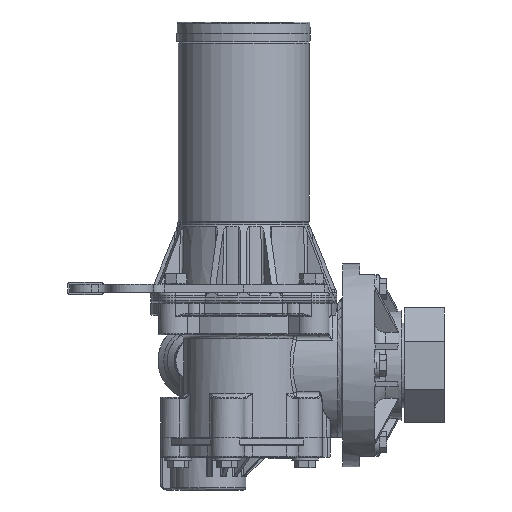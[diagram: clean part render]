
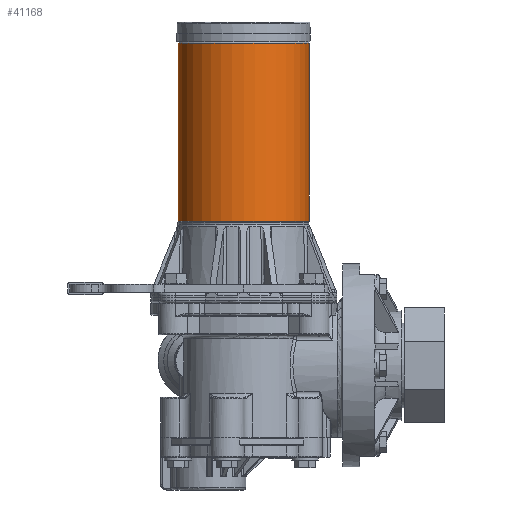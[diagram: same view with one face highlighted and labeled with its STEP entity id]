
A CAD part, left-side view. The second image highlights one B-rep face of the part: STEP entity #41168.
In plain terms, the highlighted cylindrical face has radius 38.976 mm (diameter 77.953 mm), a full revolution.
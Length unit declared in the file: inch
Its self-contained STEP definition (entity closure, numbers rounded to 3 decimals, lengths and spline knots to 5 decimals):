
#191=ELLIPSE('',#43979,4.48658,1.5345);
#192=ELLIPSE('',#43985,4.48658,1.5345);
#2600=CYLINDRICAL_SURFACE('',#43978,1.5345);
#4318=FACE_OUTER_BOUND('',#6696,.T.);
#6696=EDGE_LOOP('',(#32804,#32805,#32806,#32807,#32808,#32809,#32810,#32811,
#32812,#32813,#32814,#32815,#32816,#32817));
#9908=LINE('',#81892,#13015);
#9909=LINE('',#81898,#13016);
#9910=LINE('',#81902,#13017);
#9911=LINE('',#81907,#13018);
#13015=VECTOR('',#51737,1.5345);
#13016=VECTOR('',#51742,0.3937);
#13017=VECTOR('',#51745,1.5345);
#13018=VECTOR('',#51750,0.3937);
#14420=CIRCLE('',#43976,1.5345);
#14422=CIRCLE('',#43980,1.5345);
#14423=CIRCLE('',#43981,1.5345);
#14424=CIRCLE('',#43982,1.5345);
#14425=CIRCLE('',#43983,1.5345);
#14426=CIRCLE('',#43984,1.5345);
#17701=VERTEX_POINT('',#81885);
#17703=VERTEX_POINT('',#81891);
#17704=VERTEX_POINT('',#81893);
#17705=VERTEX_POINT('',#81895);
#17706=VERTEX_POINT('',#81897);
#17707=VERTEX_POINT('',#81899);
#17708=VERTEX_POINT('',#81901);
#17709=VERTEX_POINT('',#81904);
#17710=VERTEX_POINT('',#81906);
#17711=VERTEX_POINT('',#81908);
#22890=EDGE_CURVE('',#17701,#17701,#14420,.T.);
#22893=EDGE_CURVE('',#17701,#17703,#9908,.T.);
#22894=EDGE_CURVE('',#17703,#17704,#191,.T.);
#22895=EDGE_CURVE('',#17704,#17705,#14422,.T.);
#22896=EDGE_CURVE('',#17705,#17706,#9909,.T.);
#22897=EDGE_CURVE('',#17706,#17707,#14423,.T.);
#22898=EDGE_CURVE('',#17707,#17708,#9910,.T.);
#22899=EDGE_CURVE('',#17708,#17708,#14424,.T.);
#22900=EDGE_CURVE('',#17707,#17709,#14425,.T.);
#22901=EDGE_CURVE('',#17709,#17710,#9911,.T.);
#22902=EDGE_CURVE('',#17710,#17711,#14426,.T.);
#22903=EDGE_CURVE('',#17711,#17703,#192,.T.);
#32804=ORIENTED_EDGE('',*,*,#22890,.F.);
#32805=ORIENTED_EDGE('',*,*,#22893,.T.);
#32806=ORIENTED_EDGE('',*,*,#22894,.T.);
#32807=ORIENTED_EDGE('',*,*,#22895,.T.);
#32808=ORIENTED_EDGE('',*,*,#22896,.T.);
#32809=ORIENTED_EDGE('',*,*,#22897,.T.);
#32810=ORIENTED_EDGE('',*,*,#22898,.T.);
#32811=ORIENTED_EDGE('',*,*,#22899,.F.);
#32812=ORIENTED_EDGE('',*,*,#22898,.F.);
#32813=ORIENTED_EDGE('',*,*,#22900,.T.);
#32814=ORIENTED_EDGE('',*,*,#22901,.T.);
#32815=ORIENTED_EDGE('',*,*,#22902,.T.);
#32816=ORIENTED_EDGE('',*,*,#22903,.T.);
#32817=ORIENTED_EDGE('',*,*,#22893,.F.);
#41168=ADVANCED_FACE('',(#4318),#2600,.T.);
#43976=AXIS2_PLACEMENT_3D('',#81886,#51730,#51731);
#43978=AXIS2_PLACEMENT_3D('',#81890,#51735,#51736);
#43979=AXIS2_PLACEMENT_3D('',#81894,#51738,#51739);
#43980=AXIS2_PLACEMENT_3D('',#81896,#51740,#51741);
#43981=AXIS2_PLACEMENT_3D('',#81900,#51743,#51744);
#43982=AXIS2_PLACEMENT_3D('',#81903,#51746,#51747);
#43983=AXIS2_PLACEMENT_3D('',#81905,#51748,#51749);
#43984=AXIS2_PLACEMENT_3D('',#81909,#51751,#51752);
#43985=AXIS2_PLACEMENT_3D('',#81910,#51753,#51754);
#51730=DIRECTION('center_axis',(0.,0.,
1.));
#51731=DIRECTION('ref_axis',(-1.,0.,0.));
#51735=DIRECTION('center_axis',(0.,0.,
1.));
#51736=DIRECTION('ref_axis',(-1.,0.,0.));
#51737=DIRECTION('',(0.,0.,-1.));
#51738=DIRECTION('center_axis',(0.,0.94,
0.342));
#51739=DIRECTION('ref_axis',(0.,-0.342,0.94));
#51740=DIRECTION('center_axis',(0.,0.,
-1.));
#51741=DIRECTION('ref_axis',(-1.,0.,0.));
#51742=DIRECTION('',(0.,0.,-1.));
#51743=DIRECTION('center_axis',(0.,0.,
-1.));
#51744=DIRECTION('ref_axis',(-1.,0.,0.));
#51745=DIRECTION('',(0.,0.,-1.));
#51746=DIRECTION('center_axis',(0.,0.,
-1.));
#51747=DIRECTION('ref_axis',(-1.,0.,0.));
#51748=DIRECTION('center_axis',(0.,0.,
-1.));
#51749=DIRECTION('ref_axis',(-1.,0.,0.));
#51750=DIRECTION('',(0.,0.,1.));
#51751=DIRECTION('center_axis',(0.,0.,
-1.));
#51752=DIRECTION('ref_axis',(-1.,0.,0.));
#51753=DIRECTION('center_axis',(0.,-0.94,
0.342));
#51754=DIRECTION('ref_axis',(0.,-0.342,-0.94));
#81885=CARTESIAN_POINT('',(-1.1175,0.,3.792));
#81886=CARTESIAN_POINT('Origin',(-2.652,0.,
3.792));
#81890=CARTESIAN_POINT('Origin',(-2.652,0.,
-0.403));
#81891=CARTESIAN_POINT('',(-1.1175,0.,3.722));
#81892=CARTESIAN_POINT('',(-1.1175,0.,-0.403));
#81893=CARTESIAN_POINT('',(-1.11885,0.06442,3.545));
#81894=CARTESIAN_POINT('Origin',(-2.652,0.,
3.722));
#81895=CARTESIAN_POINT('',(-1.11757,0.015,3.545));
#81896=CARTESIAN_POINT('Origin',(-2.652,0.,
3.545));
#81897=CARTESIAN_POINT('',(-1.11757,0.015,-0.303));
#81898=CARTESIAN_POINT('',(-1.11757,0.015,-0.403));
#81899=CARTESIAN_POINT('',(-1.1175,0.,-0.303));
#81900=CARTESIAN_POINT('Origin',(-2.652,0.,
-0.303));
#81901=CARTESIAN_POINT('',(-1.1175,0.,-0.373));
#81902=CARTESIAN_POINT('',(-1.1175,0.,-0.403));
#81903=CARTESIAN_POINT('Origin',(-2.652,0.,
-0.373));
#81904=CARTESIAN_POINT('',(-1.11757,-0.015,-0.303));
#81905=CARTESIAN_POINT('Origin',(-2.652,0.,
-0.303));
#81906=CARTESIAN_POINT('',(-1.11757,-0.015,3.545));
#81907=CARTESIAN_POINT('',(-1.11757,-0.015,-0.403));
#81908=CARTESIAN_POINT('',(-1.11885,-0.06442,3.545));
#81909=CARTESIAN_POINT('Origin',(-2.652,0.,
3.545));
#81910=CARTESIAN_POINT('Origin',(-2.652,0.,
3.722));
